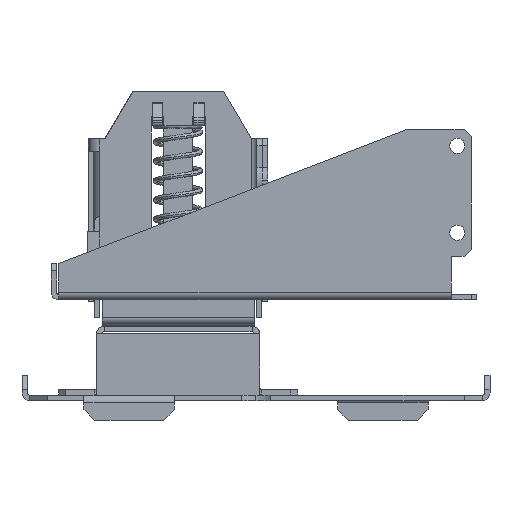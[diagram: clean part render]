
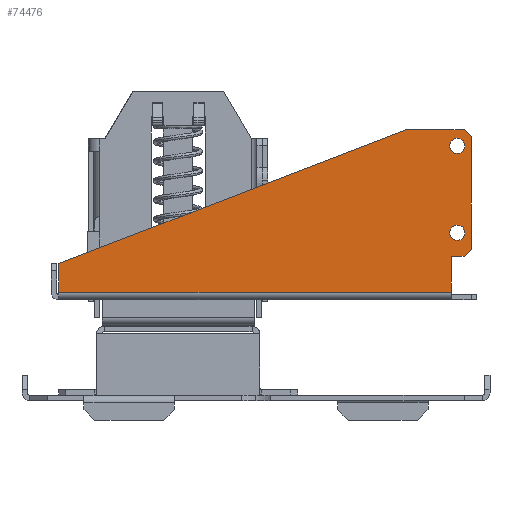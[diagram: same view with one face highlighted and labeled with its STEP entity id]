
A CAD part, left-side view. The second image highlights one B-rep face of the part: STEP entity #74476.
In plain terms, the highlighted planar face has unit normal (-1, 0, 0).
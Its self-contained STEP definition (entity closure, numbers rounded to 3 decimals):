
#71411=CARTESIAN_POINT(' ',(-111.25,-50.4,0.6));
#71412=VERTEX_POINT(' ',#71411);
#71426=CARTESIAN_POINT(' ',(-111.25,-50.4,0.6));
#71431=DIRECTION(' ',(0.,1.,0.));
#71436=VECTOR(' ',#71431,1.);
#71441=LINE('',#71426,#71436);
#71446=CARTESIAN_POINT(' ',(-111.25,58.,0.6));
#71447=VERTEX_POINT(' ',#71446);
#71451=EDGE_CURVE(' ',#71412,#71447,#71441,.T.);
#72976=CARTESIAN_POINT(' ',(-111.25,-50.4,10.5));
#72977=VERTEX_POINT(' ',#72976);
#72991=CARTESIAN_POINT(' ',(-111.25,-50.4,10.5));
#72996=DIRECTION(' ',(0.,0.,-1.));
#73001=VECTOR(' ',#72996,1.);
#73006=LINE('',#72991,#73001);
#73011=EDGE_CURVE(' ',#72977,#71412,#73006,.T.);
#74011=DIRECTION(' ',(-1.,-0.,0.));
#74016=CARTESIAN_POINT(' ',(-111.25,-55.9,45.5));
#74021=DIRECTION(' ',(-0.,1.,0.));
#74026=AXIS2_PLACEMENT_3D(' ',#74016,#74011,#74021);
#74031=PLANE('NONE',#74026);
#74036=CARTESIAN_POINT(' ',(-111.25,-53.9,10.5));
#74041=DIRECTION(' ',(0.,1.,0.));
#74046=VECTOR(' ',#74041,1.);
#74051=LINE('',#74036,#74046);
#74056=CARTESIAN_POINT(' ',(-111.25,-53.9,10.5));
#74057=VERTEX_POINT(' ',#74056);
#74061=EDGE_CURVE(' ',#74057,#72977,#74051,.T.);
#74066=ORIENTED_EDGE(' ',*,*,#74061,.F.);
#74071=CARTESIAN_POINT(' ',(-111.25,-53.9,10.5));
#74076=DIRECTION(' ',(0.,-0.707,0.707));
#74081=VECTOR(' ',#74076,1.);
#74086=LINE('',#74071,#74081);
#74091=CARTESIAN_POINT(' ',(-111.25,-55.9,12.5));
#74092=VERTEX_POINT(' ',#74091);
#74096=EDGE_CURVE(' ',#74057,#74092,#74086,.T.);
#74101=ORIENTED_EDGE(' ',*,*,#74096,.T.);
#74106=CARTESIAN_POINT(' ',(-111.25,-55.9,12.5));
#74111=DIRECTION(' ',(0.,0.,1.));
#74116=VECTOR(' ',#74111,1.);
#74121=LINE('',#74106,#74116);
#74126=CARTESIAN_POINT(' ',(-111.25,-55.9,43.5));
#74127=VERTEX_POINT(' ',#74126);
#74131=EDGE_CURVE(' ',#74092,#74127,#74121,.T.);
#74136=ORIENTED_EDGE(' ',*,*,#74131,.T.);
#74141=CARTESIAN_POINT(' ',(-111.25,-55.9,43.5));
#74146=DIRECTION(' ',(0.,0.707,0.707));
#74151=VECTOR(' ',#74146,1.);
#74156=LINE('',#74141,#74151);
#74161=CARTESIAN_POINT(' ',(-111.25,-53.9,45.5));
#74162=VERTEX_POINT(' ',#74161);
#74166=EDGE_CURVE(' ',#74127,#74162,#74156,.T.);
#74171=ORIENTED_EDGE(' ',*,*,#74166,.T.);
#74176=CARTESIAN_POINT(' ',(-111.25,-53.9,45.5));
#74181=DIRECTION(' ',(0.,1.,0.));
#74186=VECTOR(' ',#74181,1.);
#74191=LINE('',#74176,#74186);
#74196=CARTESIAN_POINT(' ',(-111.25,-38.,45.5));
#74197=VERTEX_POINT(' ',#74196);
#74201=EDGE_CURVE(' ',#74162,#74197,#74191,.T.);
#74206=ORIENTED_EDGE(' ',*,*,#74201,.T.);
#74211=CARTESIAN_POINT(' ',(-111.25,-38.,45.5));
#74216=DIRECTION(' ',(0.,0.933,-0.36));
#74221=VECTOR(' ',#74216,1.);
#74226=LINE('',#74211,#74221);
#74231=CARTESIAN_POINT(' ',(-111.25,58.,8.5));
#74232=VERTEX_POINT(' ',#74231);
#74236=EDGE_CURVE(' ',#74197,#74232,#74226,.T.);
#74241=ORIENTED_EDGE(' ',*,*,#74236,.T.);
#74246=CARTESIAN_POINT(' ',(-111.25,58.,8.5));
#74251=DIRECTION(' ',(0.,0.,-1.));
#74256=VECTOR(' ',#74251,1.);
#74261=LINE('',#74246,#74256);
#74266=EDGE_CURVE(' ',#74232,#71447,#74261,.T.);
#74271=ORIENTED_EDGE(' ',*,*,#74266,.T.);
#74276=ORIENTED_EDGE(' ',*,*,#71451,.F.);
#74281=ORIENTED_EDGE(' ',*,*,#73011,.F.);
#74286=EDGE_LOOP(' ',(#74066,#74101,#74136,#74171,#74206,#74241,#74271,#74276,#74281));
#74291=FACE_OUTER_BOUND(' ',#74286,.T.);
#74296=CARTESIAN_POINT(' ',(-111.25,-52.,41.));
#74301=DIRECTION(' ',(-1.,0.,0.));
#74306=DIRECTION(' ',(0.,0.,1.));
#74311=AXIS2_PLACEMENT_3D(' ',#74296,#74301,#74306);
#74316=CIRCLE('',#74311,2.1);
#74321=CARTESIAN_POINT(' ',(-111.25,-52.,43.1));
#74322=VERTEX_POINT(' ',#74321);
#74326=CARTESIAN_POINT(' ',(-111.25,-52.,38.9));
#74327=VERTEX_POINT(' ',#74326);
#74331=EDGE_CURVE(' ',#74322,#74327,#74316,.T.);
#74336=ORIENTED_EDGE(' ',*,*,#74331,.F.);
#74341=CARTESIAN_POINT(' ',(-111.25,-52.,41.));
#74346=DIRECTION(' ',(-1.,0.,0.));
#74351=DIRECTION(' ',(0.,0.,-1.));
#74356=AXIS2_PLACEMENT_3D(' ',#74341,#74346,#74351);
#74361=CIRCLE('',#74356,2.1);
#74366=EDGE_CURVE(' ',#74327,#74322,#74361,.T.);
#74371=ORIENTED_EDGE(' ',*,*,#74366,.F.);
#74376=EDGE_LOOP(' ',(#74336,#74371));
#74381=FACE_BOUND(' ',#74376,.T.);
#74386=CARTESIAN_POINT(' ',(-111.25,-52.,17.));
#74391=DIRECTION(' ',(-1.,0.,0.));
#74396=DIRECTION(' ',(0.,0.,1.));
#74401=AXIS2_PLACEMENT_3D(' ',#74386,#74391,#74396);
#74406=CIRCLE('',#74401,2.1);
#74411=CARTESIAN_POINT(' ',(-111.25,-52.,19.1));
#74412=VERTEX_POINT(' ',#74411);
#74416=CARTESIAN_POINT(' ',(-111.25,-52.,14.9));
#74417=VERTEX_POINT(' ',#74416);
#74421=EDGE_CURVE(' ',#74412,#74417,#74406,.T.);
#74426=ORIENTED_EDGE(' ',*,*,#74421,.F.);
#74431=CARTESIAN_POINT(' ',(-111.25,-52.,17.));
#74436=DIRECTION(' ',(-1.,0.,0.));
#74441=DIRECTION(' ',(0.,0.,-1.));
#74446=AXIS2_PLACEMENT_3D(' ',#74431,#74436,#74441);
#74451=CIRCLE('',#74446,2.1);
#74456=EDGE_CURVE(' ',#74417,#74412,#74451,.T.);
#74461=ORIENTED_EDGE(' ',*,*,#74456,.F.);
#74466=EDGE_LOOP(' ',(#74426,#74461));
#74471=FACE_BOUND(' ',#74466,.T.);
#74476=ADVANCED_FACE('NONE',(#74291,#74381,#74471),#74031,.T.);
